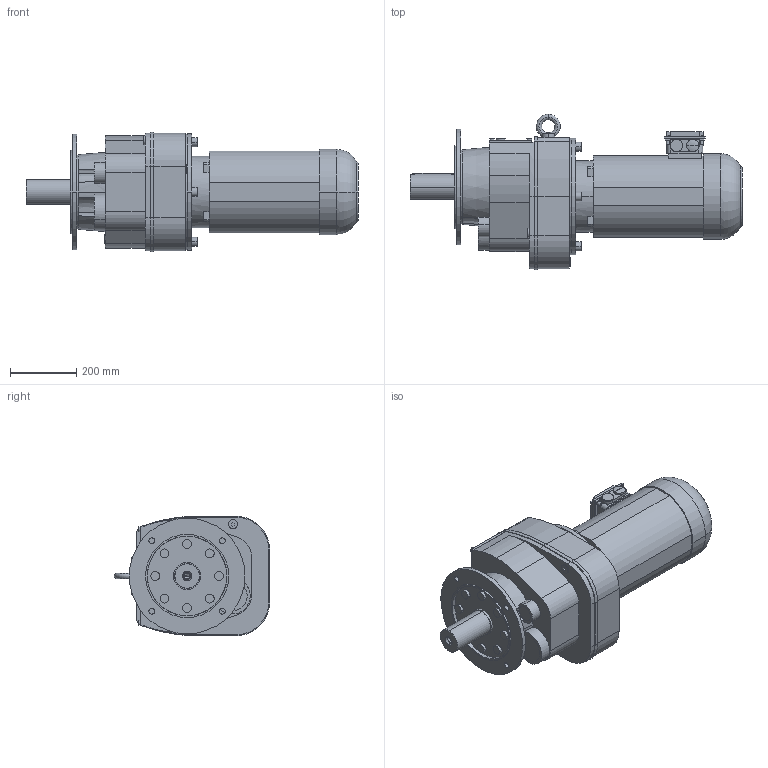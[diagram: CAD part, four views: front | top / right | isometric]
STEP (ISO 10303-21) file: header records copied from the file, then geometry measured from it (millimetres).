
FILE_DESCRIPTION(('STEP AP214'),'1');
FILE_NAME('STEP-File.stp','2018-01-01T00:00:00',(' '),('KEB'),' ','KEB-DRIVE',' ');
FILE_SCHEMA(('AUTOMOTIVE_DESIGN { 1 0 10303 214 1 1 1 1 }'));
Length unit declared in the file: millimetre
Products named in the file (10): g7b; w7_we_75x140; c7_350; ca7; dm132_kkn; kk10; PLUG_M32; SCREW-PLUG_M32; ndm132; G73C DM132SB4§CAD13
Assembly tree (9 placements, depth 2):
  G73C DM132SB4§CAD13
    g7b
    w7_we_75x140
    c7_350
    ca7
    dm132_kkn
    kk10
    PLUG_M32
    SCREW-PLUG_M32
    ndm132
Bounding box: 999 x 467.5 x 360 mm (x, y, z)
Volume: 59717739 mm3; surface area: 1798036.5 mm2
Topology: 9 solids, 9 shells, 370 faces, 900 edges, 595 vertices
Faces by surface type: plane 201, cylinder 131, cone 22, torus 16
Entity records: 12513 total; most frequent: CARTESIAN_POINT 3843, ORIENTED_EDGE 1796, DIRECTION 1637, EDGE_CURVE 898, VERTEX_POINT 595, AXIS2_PLACEMENT_3D 568, VECTOR 501, LINE 501
